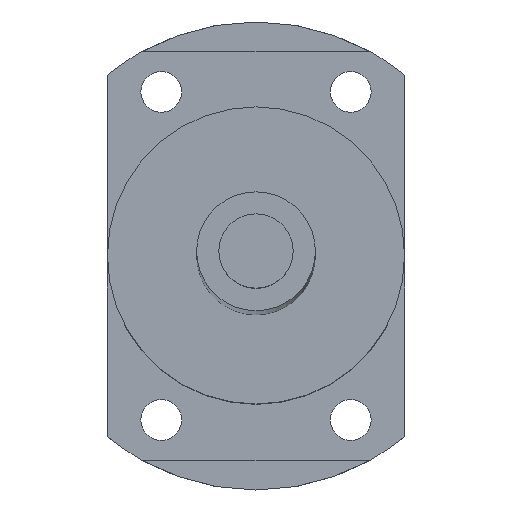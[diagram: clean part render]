
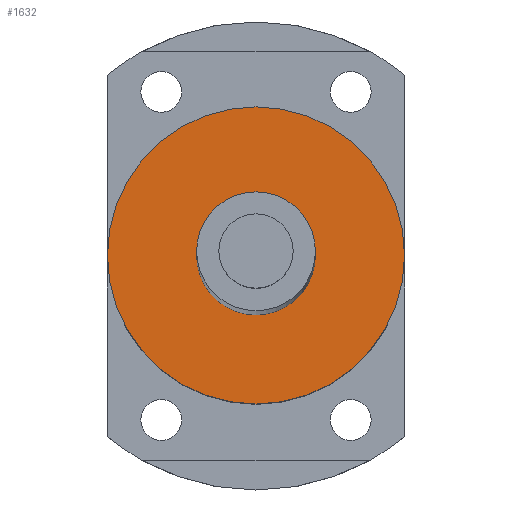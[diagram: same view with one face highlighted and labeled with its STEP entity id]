
A CAD part, top view. The second image highlights one B-rep face of the part: STEP entity #1632.
In plain terms, the highlighted planar face has unit normal (0, 0, 1).
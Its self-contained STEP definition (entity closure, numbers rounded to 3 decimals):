
#503=CARTESIAN_POINT('',(0.,0.,425.5));
#504=DIRECTION('',(0.,0.,1.));
#505=DIRECTION('',(1.,0.,0.));
#506=AXIS2_PLACEMENT_3D('',#503,#504,#505);
#508=CARTESIAN_POINT('',(0.,0.,425.5));
#509=DIRECTION('',(0.,0.,1.));
#510=DIRECTION('',(-1.,0.,0.));
#511=AXIS2_PLACEMENT_3D('',#508,#509,#510);
#513=CARTESIAN_POINT('',(0.,0.,425.5));
#514=DIRECTION('',(0.,0.,1.));
#515=DIRECTION('',(1.,0.,0.));
#516=AXIS2_PLACEMENT_3D('',#513,#514,#515);
#518=CARTESIAN_POINT('',(0.,0.,425.5));
#519=DIRECTION('',(0.,0.,1.));
#520=DIRECTION('',(-1.,0.,0.));
#521=AXIS2_PLACEMENT_3D('',#518,#519,#520);
#757=CARTESIAN_POINT('',(20.,0.,425.5));
#758=CARTESIAN_POINT('',(-20.,0.,425.5));
#759=VERTEX_POINT('',#757);
#760=VERTEX_POINT('',#758);
#769=CARTESIAN_POINT('',(8.,0.,425.5));
#770=CARTESIAN_POINT('',(-8.,0.,425.5));
#771=VERTEX_POINT('',#769);
#772=VERTEX_POINT('',#770);
#1617=CARTESIAN_POINT('',(0.,0.,425.5));
#1618=DIRECTION('',(0.,0.,1.));
#1619=DIRECTION('',(1.,0.,0.));
#1620=AXIS2_PLACEMENT_3D('',#1617,#1618,#1619);
#1621=PLANE('',#1620);
#1622=ORIENTED_EDGE('',*,*,#1597,.F.);
#1623=ORIENTED_EDGE('',*,*,#1611,.F.);
#1624=EDGE_LOOP('',(#1622,#1623));
#1625=FACE_OUTER_BOUND('',#1624,.F.);
#1627=ORIENTED_EDGE('',*,*,#1626,.T.);
#1629=ORIENTED_EDGE('',*,*,#1628,.T.);
#1630=EDGE_LOOP('',(#1627,#1629));
#1631=FACE_BOUND('',#1630,.F.);
#1632=ADVANCED_FACE('',(#1625,#1631),#1621,.T.);
#507=CIRCLE('',#506,20.);
#512=CIRCLE('',#511,20.);
#517=CIRCLE('',#516,8.);
#522=CIRCLE('',#521,8.);
#1597=EDGE_CURVE('',#759,#760,#507,.T.);
#1611=EDGE_CURVE('',#760,#759,#512,.T.);
#1626=EDGE_CURVE('',#771,#772,#517,.T.);
#1628=EDGE_CURVE('',#772,#771,#522,.T.);
